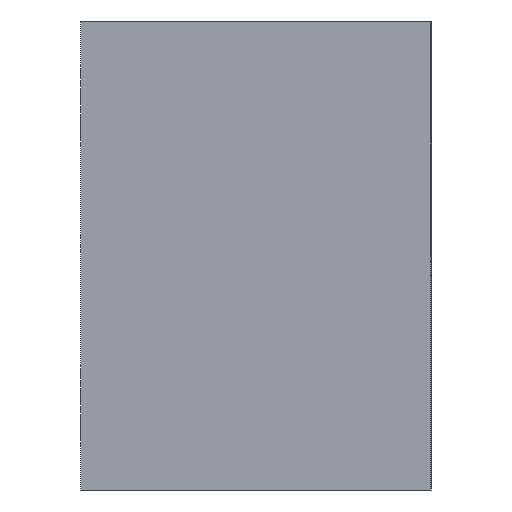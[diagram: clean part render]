
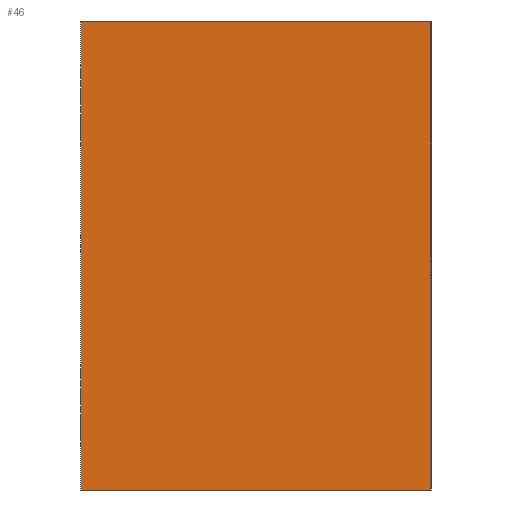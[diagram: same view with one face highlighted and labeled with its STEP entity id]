
A CAD part, left-side view. The second image highlights one B-rep face of the part: STEP entity #46.
In plain terms, the highlighted planar face has unit normal (-1, 0, 0).
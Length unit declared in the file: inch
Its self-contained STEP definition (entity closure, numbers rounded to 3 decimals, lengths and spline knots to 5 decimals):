
#46 = ADVANCED_FACE ( 'NONE', ( #161 ), #1507, .F. ) ;
#107 = VERTEX_POINT ( 'NONE', #1605 ) ;
#111 = VERTEX_POINT ( 'NONE', #1617 ) ;
#136 = VERTEX_POINT ( 'NONE', #1613 ) ;
#145 = VERTEX_POINT ( 'NONE', #1610 ) ;
#161 = FACE_OUTER_BOUND ( 'NONE', #394, .T. ) ;
#188 = EDGE_CURVE ( 'NONE', #136, #111, #655, .T. ) ;
#189 = EDGE_CURVE ( 'NONE', #136, #145, #628, .T. ) ;
#202 = EDGE_CURVE ( 'NONE', #111, #107, #651, .T. ) ;
#394 = EDGE_LOOP ( 'NONE', ( #547, #526, #544, #551 ) ) ;
#526 = ORIENTED_EDGE ( 'NONE', *, *, #188, .F. ) ;
#544 = ORIENTED_EDGE ( 'NONE', *, *, #189, .T. ) ;
#547 = ORIENTED_EDGE ( 'NONE', *, *, #202, .F. ) ;
#551 = ORIENTED_EDGE ( 'NONE', *, *, #570, .T. ) ;
#570 = EDGE_CURVE ( 'NONE', #145, #107, #639, .T. ) ;
#623 = VECTOR ( 'NONE', #1597, 39.37008 ) ;
#628 = LINE ( 'NONE', #1582, #623 ) ;
#639 = LINE ( 'NONE', #872, #663 ) ;
#649 = VECTOR ( 'NONE', #1704, 39.37008 ) ;
#651 = LINE ( 'NONE', #1687, #649 ) ;
#655 = LINE ( 'NONE', #1619, #656 ) ;
#656 = VECTOR ( 'NONE', #1616, 39.37008 ) ;
#663 = VECTOR ( 'NONE', #929, 39.37008 ) ;
#872 = CARTESIAN_POINT ( 'NONE',  ( 0., 0., 0. ) ) ;
#929 = DIRECTION ( 'NONE',  ( 0., 0., 1. ) ) ;
#1296 = AXIS2_PLACEMENT_3D ( 'NONE', #1508, #1517, #1546 ) ;
#1507 = PLANE ( 'NONE',  #1296 ) ;
#1508 = CARTESIAN_POINT ( 'NONE',  ( 0., 0.875, 0. ) ) ;
#1517 = DIRECTION ( 'NONE',  ( 1., 0., 0. ) ) ;
#1546 = DIRECTION ( 'NONE',  ( 0., 0., -1. ) ) ;
#1582 = CARTESIAN_POINT ( 'NONE',  ( 0., 0.875, 0. ) ) ;
#1597 = DIRECTION ( 'NONE',  ( 0., -1., 0. ) ) ;
#1605 = CARTESIAN_POINT ( 'NONE',  ( 0., 0., 1.17 ) ) ;
#1610 = CARTESIAN_POINT ( 'NONE',  ( 0., 0., 0. ) ) ;
#1613 = CARTESIAN_POINT ( 'NONE',  ( 0., 0.875, 0. ) ) ;
#1616 = DIRECTION ( 'NONE',  ( 0., 0., 1. ) ) ;
#1617 = CARTESIAN_POINT ( 'NONE',  ( 0., 0.875, 1.17 ) ) ;
#1619 = CARTESIAN_POINT ( 'NONE',  ( 0., 0.875, 0. ) ) ;
#1687 = CARTESIAN_POINT ( 'NONE',  ( 0., 0.875, 1.17 ) ) ;
#1704 = DIRECTION ( 'NONE',  ( 0., -1., 0. ) ) ;
